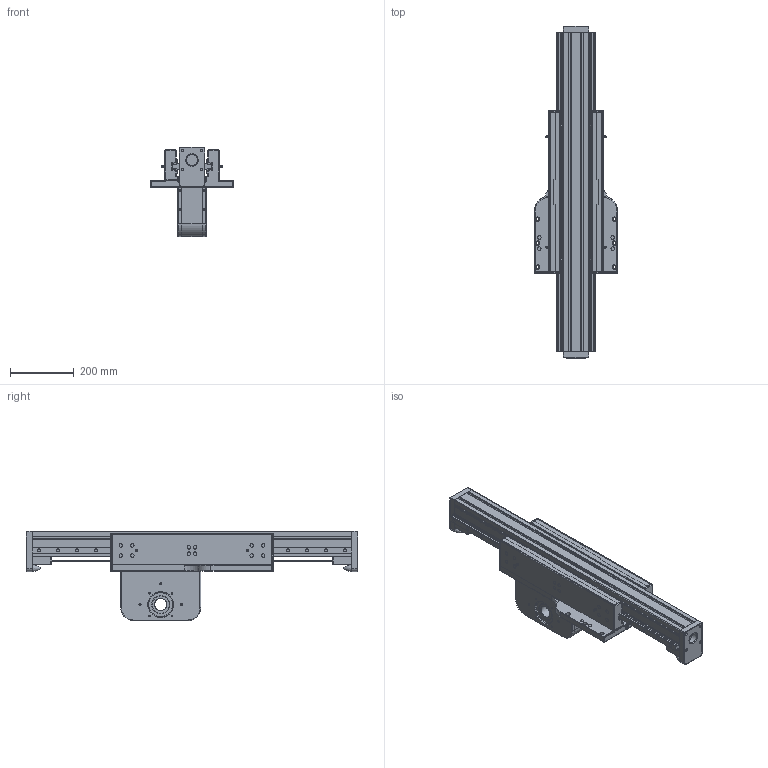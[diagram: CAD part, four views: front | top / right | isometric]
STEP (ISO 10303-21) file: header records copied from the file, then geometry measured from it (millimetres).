
FILE_DESCRIPTION(/* description */ ('00'),/* implementation_level */ '2;1');
FILE_NAME(/* name */ 'D:\EVOLVE\STUDIO_EVOLVE\LIBRERIA_MODELLI\UNITÀ_BELT_SERIE_O\UBO_SIMPLIFIED\UBO_080_M_TS38_X0450_SIMPLIFIED.stp',/* time_stamp */ '2022-04-13T17:06:56+02:00',/* author */ ('Daniel'),/* organization */ (''),/* preprocessor_version */ 'ST-DEVELOPER v18.1',/* originating_system */ 'Autodesk Inventor 2021',/* authorisation */ '');
FILE_SCHEMA (('AUTOMOTIVE_DESIGN { 1 0 10303 214 3 1 1 }'));
Length unit declared in the file: millimetre
Products named in the file (3): UBO_080_M_TS38_X0450; AS_UBO_080_M_L1000_SIMPLIFIED; CR_UBO_080_M_TS38_SIMPLIFIED
Assembly tree (2 placements, depth 2):
  UBO_080_M_TS38_X0450
    AS_UBO_080_M_L1000_SIMPLIFIED
    CR_UBO_080_M_TS38_SIMPLIFIED
Bounding box: 260 x 1040 x 280 mm (x, y, z)
Volume: 14590372.4 mm3; surface area: 2129709.5 mm2
Topology: 127 solids, 127 shells, 1913 faces, 4458 edges, 2896 vertices
Faces by surface type: plane 1127, cylinder 598, cone 98, torus 44, sphere 38, bspline 8
Full cylindrical faces by diameter (mm): 4.917 x16, 6 x12, 6.647 x14, 8 x4, 8.376 x8, 8.5 x12, 9.5 x68, 11 x60, 11.2 x8, 13.5 x12, 15.2 x20, 18.4 x4, 35 x2, 38 x1, 55 x2, 75 x2, 80 x2
Entity records: 55505 total; most frequent: CARTESIAN_POINT 9706, DIRECTION 9542, ORIENTED_EDGE 8848, EDGE_CURVE 4424, AXIS2_PLACEMENT_3D 3312, LINE 2918, VECTOR 2918, VERTEX_POINT 2896
